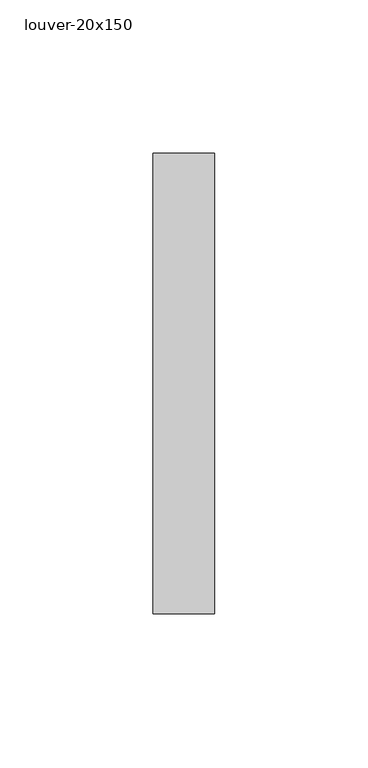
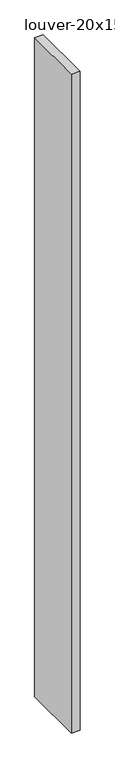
"""IFC4 building model written with IfcOpenShell, lengths in millimetres: member geometry, 長方形マリオン : louver-20x150."""

import ifcopenshell
import ifcopenshell.guid

model = None  # the IFC model being written
_history = None  # IfcOwnerHistory: only IFC2X3 demands one
_inside = {}  # id of a spatial element -> (the spatial element, [elements in it])
_under = {}  # id of a project, library or spatial element -> (it, [spatial elements below it])
_declared = {}  # id of a project -> (the project, [libraries it declares])
_typed = {}  # id of a type object -> (the type object, [elements of that type])
_made_of = {}  # id of a material, layer set ... -> (it, [elements and type objects made of it])


def new_model(schema):
    """Start an empty IFC model of exactly this schema.

    Asked for "IFC4X3", IfcOpenShell would pick the latest addendum, in which some entities
    have other attributes; the version numbers below select the first issue.
    IFC2X3 requires an IfcOwnerHistory on every rooted entity: one is made here for all.
    """
    global model, _history
    if schema == "IFC4X3":
        model = ifcopenshell.file(schema_version=(4, 3, 0, 0))
    else:
        model = ifcopenshell.file(schema=schema)
    _inside.clear()
    _under.clear()
    _declared.clear()
    _typed.clear()
    _made_of.clear()
    _history = None
    if model.schema == "IFC2X3":
        org = make("IfcOrganization", Name="unknown")
        user = make(
            "IfcPersonAndOrganization",
            ThePerson=make("IfcPerson", FamilyName="unknown"),
            TheOrganization=org,
        )
        app = make(
            "IfcApplication",
            ApplicationDeveloper=org,
            Version="unknown",
            ApplicationFullName="unknown",
            ApplicationIdentifier="unknown",
        )
        _history = make(
            "IfcOwnerHistory",
            OwningUser=user,
            OwningApplication=app,
            ChangeAction="ADDED",
            CreationDate=0,
        )
    return model


def make(cls, **values):
    """One entity of the class cls with the attributes given. An attribute that is None is left unset."""
    return model.create_entity(
        cls, **{name: value for name, value in values.items() if value is not None}
    )


def rooted(cls, **values):
    """An entity with a GlobalId (a new one), such as an element, a storey or a relation."""
    return make(cls, GlobalId=ifcopenshell.guid.new(), OwnerHistory=_history, **values)


def si_unit(unit_type, name, prefix=None):
    """IfcSIUnit, for example si_unit("LENGTHUNIT", "METRE", prefix="MILLI")."""
    return make("IfcSIUnit", UnitType=unit_type, Prefix=prefix, Name=name)


def assignment(units):
    """IfcUnitAssignment: the units of a project."""
    return None if units is None else make("IfcUnitAssignment", Units=units)


def point(xyz):
    """IfcCartesianPoint."""
    return None if xyz is None else make("IfcCartesianPoint", Coordinates=xyz)


def direction(xyz):
    """IfcDirection."""
    return None if xyz is None else make("IfcDirection", DirectionRatios=xyz)


def frame(location, z_axis=None, x_axis=None):
    """IfcAxis2Placement3D, a coordinate frame: its origin and axes. An axis left out is left unset."""
    return make(
        "IfcAxis2Placement3D",
        Location=point(location),
        Axis=direction(z_axis),
        RefDirection=direction(x_axis),
    )


def origin():
    """The frame at (0, 0, 0) with its axes left unset."""
    return frame((0.0, 0.0, 0.0))


def place(relative_to, where):
    """IfcLocalPlacement: puts the frame where relative to a parent placement (None: the world)."""
    return make(
        "IfcLocalPlacement", PlacementRelTo=relative_to, RelativePlacement=where
    )


def context(
    kind, dimensions, precision=None, world=None, true_north=None, identifier=None
):
    """IfcGeometricRepresentationContext, for example the 3D "Model" context."""
    return make(
        "IfcGeometricRepresentationContext",
        ContextIdentifier=identifier,
        ContextType=kind,
        CoordinateSpaceDimension=dimensions,
        Precision=precision,
        WorldCoordinateSystem=world,
        TrueNorth=true_north,
    )


def project(units=None, contexts=None):
    """IfcProject with its units and contexts."""
    return rooted(
        "IfcProject",
        Name="project",
        RepresentationContexts=contexts,
        UnitsInContext=assignment(units),
    )


def spatial(cls, under=None, at=None, **own):
    """A site, building, storey or space (cls), placed at a placement, below another one or the project."""
    s = rooted(cls, ObjectPlacement=at, **own)
    if under is not None:
        _under.setdefault(under.id(), (under, []))[1].append(s)
    return s


def polyline(points):
    """IfcPolyline through the points."""
    return make("IfcPolyline", Points=[point(p) for p in points])


def outline(outer, holes=None, kind="AREA"):
    """IfcArbitraryClosedProfileDef: a profile drawn as a closed curve; with holes, ...WithVoids."""
    if holes is None:
        return make("IfcArbitraryClosedProfileDef", ProfileType=kind, OuterCurve=outer)
    return make(
        "IfcArbitraryProfileDefWithVoids",
        ProfileType=kind,
        OuterCurve=outer,
        InnerCurves=holes,
    )


def extrude(swept, where, along, depth):
    """IfcExtrudedAreaSolid: the profile swept, set in the frame where, extruded along a direction by depth."""
    return make(
        "IfcExtrudedAreaSolid",
        SweptArea=swept,
        Position=where,
        ExtrudedDirection=direction(along),
        Depth=depth,
    )


def shape(context_of_items, identifier, shape_type, items):
    """IfcShapeRepresentation: the items that make up one representation, for example the "Body"."""
    return make(
        "IfcShapeRepresentation",
        ContextOfItems=context_of_items,
        RepresentationIdentifier=identifier,
        RepresentationType=shape_type,
        Items=items,
    )


def source(mapping_origin, context_of_items, identifier, shape_type, items):
    """IfcRepresentationMap: a shape defined once, which mapped items show again and again."""
    return make(
        "IfcRepresentationMap",
        MappingOrigin=mapping_origin,
        MappedRepresentation=shape(context_of_items, identifier, shape_type, items),
    )


def transform(
    local_origin,
    x_axis=None,
    y_axis=None,
    z_axis=None,
    scale=None,
    scale2=None,
    scale3=None,
    uniform=True,
):
    """IfcCartesianTransformationOperator3D, or its non-uniform kind. x_axis, y_axis, z_axis: its Axis1, 2, 3."""
    if uniform:
        return make(
            "IfcCartesianTransformationOperator3D",
            Axis1=direction(x_axis),
            Axis2=direction(y_axis),
            LocalOrigin=point(local_origin),
            Scale=scale,
            Axis3=direction(z_axis),
        )
    return make(
        "IfcCartesianTransformationOperator3DnonUniform",
        Axis1=direction(x_axis),
        Axis2=direction(y_axis),
        LocalOrigin=point(local_origin),
        Scale=scale,
        Axis3=direction(z_axis),
        Scale2=scale2,
        Scale3=scale3,
    )


def mapped(mapping_source, mapping_target):
    """IfcMappedItem: shows the shape of a source again, moved by a transform."""
    return make(
        "IfcMappedItem", MappingSource=mapping_source, MappingTarget=mapping_target
    )


def made_of(thing, what):
    """Note that an element or type object is made of a material, layer set ...; save() writes the relation."""
    if what is not None:
        _made_of.setdefault(what.id(), (what, []))[1].append(thing)
    return thing


def element(
    cls,
    number,
    at=None,
    inside=None,
    cuts=None,
    type_object=None,
    material=None,
    context=None,
    identifier="Body",
    shape_type=None,
    held_by="IfcProductDefinitionShape",
    body=None,
    shapes=None,
    **own,
):
    """One element of the class cls, such as IfcWall. Its Tag is "e" and its number.

    at: its placement. inside: the storey or other place that contains it. cuts: it is an
    opening in that element (IfcRelVoidsElement). A single representation is given by context,
    identifier, shape_type and body (its items); several are given by shapes. held_by: the class
    of the entity that holds the representations. save() writes the other relations.
    """
    e = rooted(cls, Tag="e%d" % number, ObjectPlacement=at, **own)
    if body is not None:
        shapes = [shape(context, identifier, shape_type, body)]
    if shapes is not None:
        e.Representation = make(held_by, Representations=shapes)
    if inside is not None:
        _inside.setdefault(inside.id(), (inside, []))[1].append(e)
    if cuts is not None:
        rooted(
            "IfcRelVoidsElement", RelatingBuildingElement=cuts, RelatedOpeningElement=e
        )
    if type_object is not None:
        _typed.setdefault(type_object.id(), (type_object, []))[1].append(e)
    return made_of(e, material)


def aggregate(whole, parts):
    """IfcRelAggregates: a whole, such as a stair, and the parts it consists of."""
    return rooted("IfcRelAggregates", RelatingObject=whole, RelatedObjects=parts)


def save(model, path):
    """Write the relations noted so far, then the file.

    IfcRelAggregates (storeys below a building ...), IfcRelContainedInSpatialStructure (elements
    in a storey), IfcRelDefinesByType, IfcRelAssociatesMaterial and IfcRelDeclares: one each for
    every whole, place, type object, material and project.
    """
    for whole, parts in _under.values():
        aggregate(whole, parts)
    for where, things in _inside.values():
        rooted(
            "IfcRelContainedInSpatialStructure",
            RelatedElements=things,
            RelatingStructure=where,
        )
    for kind, things in _typed.values():
        rooted("IfcRelDefinesByType", RelatedObjects=things, RelatingType=kind)
    for what, things in _made_of.values():
        rooted("IfcRelAssociatesMaterial", RelatedObjects=things, RelatingMaterial=what)
    for by, libraries in _declared.values():
        rooted("IfcRelDeclares", RelatingContext=by, RelatedDefinitions=libraries)
    model.write(path)


def louver_20x150_8d1ae680(model_context):
    return source(origin(), model_context, "Body", "SweptSolid", [
        extrude(outline(polyline([(10.0, 75.0), (10.0, -75.0), (-10.0, -75.0), (-10.0, 75.0), (10.0, 75.0)])), frame((0.0, 0.0, -1638.2362479), z_axis=(0.0, 0.0, 1.0), x_axis=(1.0, 0.0, 0.0)), (0.0, 0.0, 1.0), 1638.2362479),
    ])


if __name__ == "__main__":
    model = new_model("IFC4")
    model_context = context("Model", 3, world=origin())
    ifc_project = project(units=[si_unit("LENGTHUNIT", "METRE", prefix="MILLI")], contexts=[model_context])
    site = spatial("IfcSite", under=ifc_project)
    building = spatial("IfcBuilding", under=site)
    placement = place(None, origin())
    louver_20x150_shape = louver_20x150_8d1ae680(model_context)
    element("IfcMember", 1, ObjectType="長方形マリオン : louver-20x150", at=placement, inside=building, context=model_context, shape_type="MappedRepresentation", body=[
        mapped(louver_20x150_shape, transform((0.0, 0.0, 0.0), x_axis=(1.0, 0.0, 0.0), y_axis=(0.0, 1.0, 0.0), z_axis=(0.0, 0.0, 1.0))),
    ])
    save(model, "model.ifc")
